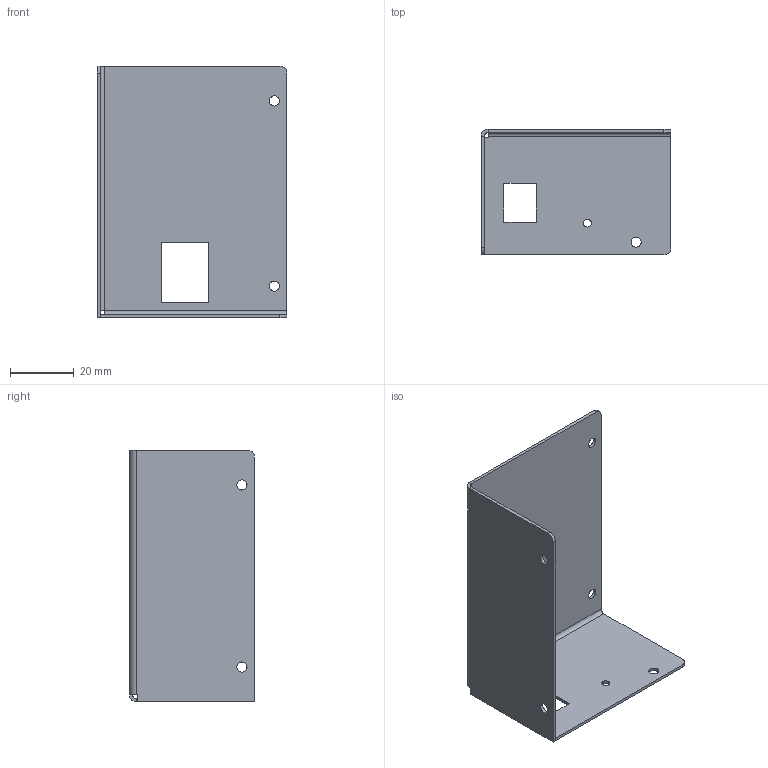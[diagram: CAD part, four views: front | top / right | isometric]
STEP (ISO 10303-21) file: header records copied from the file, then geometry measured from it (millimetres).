
FILE_DESCRIPTION (( 'STEP AP214' ), '1' );
FILE_NAME ('top.step', '2021-11-29T02:41:26', ( '' ), ( '' ), 'SwSTEP 2.0', 'SolidWorks 2020', '' );
FILE_SCHEMA (( 'AUTOMOTIVE_DESIGN' ));
Length unit declared in the file: millimetre
Products named in the file (1): top
Bounding box: 59.7 x 39.33 x 79.17 mm (x, y, z)
Volume: 9073.7 mm3; surface area: 19483.4 mm2
Topology: 1 solids, 1 shells, 51 faces, 131 edges, 82 vertices
Faces by surface type: plane 32, cylinder 19
Entity records: 1601 total; most frequent: DIRECTION 273, CARTESIAN_POINT 265, ORIENTED_EDGE 262, EDGE_CURVE 131, LINE 93, VECTOR 93, AXIS2_PLACEMENT_3D 90, VERTEX_POINT 82
